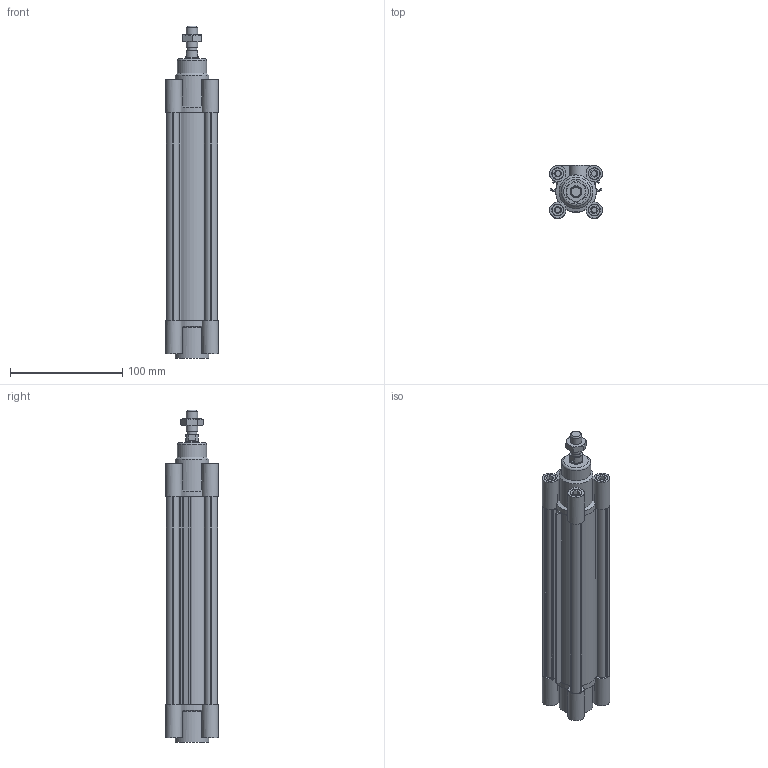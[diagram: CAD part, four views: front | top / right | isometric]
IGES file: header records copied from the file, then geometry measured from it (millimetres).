
Global section: file name: No Iges File Name specified; native system: Autodesk Inventor 2012; preprocessor: AutoDesk Inventor Iges Exporter R2012; author: pilonfr1; date: 20120128.095020; units: millimetre
Bounding box: 47 x 47 x 296 mm (x, y, z)
Volume: 252772.5 mm3; surface area: 131437.7 mm2
Topology: 5 solids, 5 shells, 316 faces, 788 edges, 522 vertices
Faces by surface type: plane 200, cylinder 54, revolution 39, cone 22, torus 1
Full cylindrical faces by diameter (mm): 8.8 x1, 10 x9, 11.5 x1, 12 x1, 26 x1, 30 x2, 32 x3
